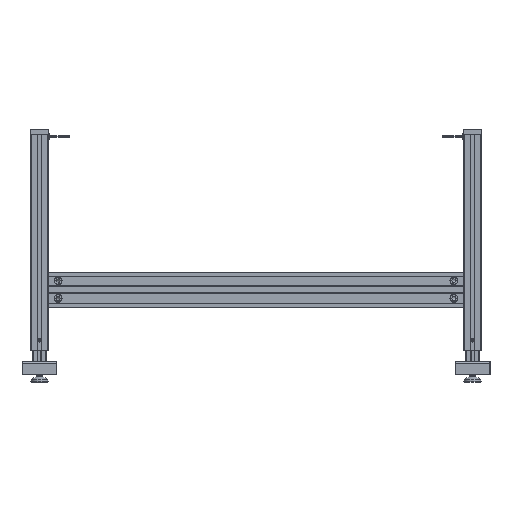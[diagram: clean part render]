
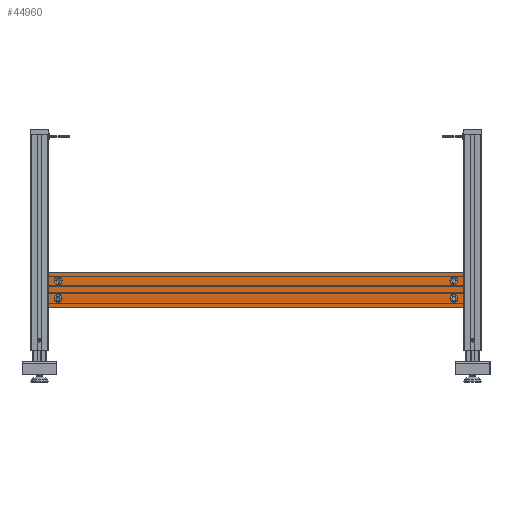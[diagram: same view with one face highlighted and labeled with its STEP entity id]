
A CAD part, left-side view. The second image highlights one B-rep face of the part: STEP entity #44960.
In plain terms, the highlighted planar face has unit normal (-1, 0, 0) as drawn and (1, 0, 0) by its records, which use the part's own axes.
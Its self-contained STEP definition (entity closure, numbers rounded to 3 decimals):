
#3013=CIRCLE('',#57402,9.);
#3014=CIRCLE('',#57403,9.);
#3015=CIRCLE('',#57404,9.);
#3016=CIRCLE('',#57405,9.);
#14815=ORIENTED_EDGE('',*,*,#22079,.T.);
#14816=ORIENTED_EDGE('',*,*,#22080,.T.);
#14817=ORIENTED_EDGE('',*,*,#22081,.T.);
#14818=ORIENTED_EDGE('',*,*,#22082,.T.);
#14819=ORIENTED_EDGE('',*,*,#22083,.T.);
#14820=ORIENTED_EDGE('',*,*,#22084,.F.);
#14821=ORIENTED_EDGE('',*,*,#22085,.T.);
#14822=ORIENTED_EDGE('',*,*,#22086,.T.);
#22079=EDGE_CURVE('',#26722,#26722,#3013,.T.);
#22080=EDGE_CURVE('',#26723,#26723,#3014,.T.);
#22081=EDGE_CURVE('',#26724,#26725,#31283,.T.);
#22082=EDGE_CURVE('',#26725,#26726,#31284,.T.);
#22083=EDGE_CURVE('',#26726,#26727,#31285,.T.);
#22084=EDGE_CURVE('',#26724,#26727,#31286,.T.);
#22085=EDGE_CURVE('',#26728,#26728,#3015,.T.);
#22086=EDGE_CURVE('',#26729,#26729,#3016,.T.);
#26722=VERTEX_POINT('',#83091);
#26723=VERTEX_POINT('',#83093);
#26724=VERTEX_POINT('',#83095);
#26725=VERTEX_POINT('',#83096);
#26726=VERTEX_POINT('',#83098);
#26727=VERTEX_POINT('',#83100);
#26728=VERTEX_POINT('',#83103);
#26729=VERTEX_POINT('',#83105);
#31283=LINE('',#83094,#35764);
#31284=LINE('',#83097,#35765);
#31285=LINE('',#83099,#35766);
#31286=LINE('',#83101,#35767);
#35764=VECTOR('',#69210,1000.);
#35765=VECTOR('',#69211,1000.);
#35766=VECTOR('',#69212,1000.);
#35767=VECTOR('',#69213,1000.);
#38356=EDGE_LOOP('',(#14815));
#38357=EDGE_LOOP('',(#14816));
#38358=EDGE_LOOP('',(#14817,#14818,#14819,#14820));
#38359=EDGE_LOOP('',(#14821));
#38360=EDGE_LOOP('',(#14822));
#40988=FACE_BOUND('',#38356,.T.);
#40989=FACE_BOUND('',#38357,.T.);
#40990=FACE_BOUND('',#38358,.T.);
#40991=FACE_BOUND('',#38359,.T.);
#40992=FACE_BOUND('',#38360,.T.);
#42748=PLANE('',#57401);
#44960=ADVANCED_FACE('',(#40988,#40989,#40990,#40991,#40992),#42748,.T.);
#57401=AXIS2_PLACEMENT_3D('',#83089,#69204,#69205);
#57402=AXIS2_PLACEMENT_3D('',#83090,#69206,#69207);
#57403=AXIS2_PLACEMENT_3D('',#83092,#69208,#69209);
#57404=AXIS2_PLACEMENT_3D('',#83102,#69214,#69215);
#57405=AXIS2_PLACEMENT_3D('',#83104,#69216,#69217);
#69204=DIRECTION('',(1.,0.,0.));
#69205=DIRECTION('',(0.,1.,0.));
#69206=DIRECTION('',(-1.,0.,0.));
#69207=DIRECTION('',(0.,0.,1.));
#69208=DIRECTION('',(-1.,0.,0.));
#69209=DIRECTION('',(0.,0.,1.));
#69210=DIRECTION('',(0.,1.,0.));
#69211=DIRECTION('',(0.,0.,1.));
#69212=DIRECTION('',(0.,-1.,0.));
#69213=DIRECTION('',(0.,0.,1.));
#69214=DIRECTION('',(-1.,0.,0.));
#69215=DIRECTION('',(0.,0.,1.));
#69216=DIRECTION('',(-1.,0.,0.));
#69217=DIRECTION('',(0.,0.,1.));
#83089=CARTESIAN_POINT('',(40.,80.,-1.));
#83090=CARTESIAN_POINT('',(40.,20.,927.5));
#83091=CARTESIAN_POINT('',(40.,20.,936.5));
#83092=CARTESIAN_POINT('',(40.,20.,22.5));
#83093=CARTESIAN_POINT('',(40.,20.,31.5));
#83094=CARTESIAN_POINT('',(40.,80.,0.));
#83095=CARTESIAN_POINT('',(40.,0.,0.));
#83096=CARTESIAN_POINT('',(40.,80.,0.));
#83097=CARTESIAN_POINT('',(40.,80.,-1.));
#83098=CARTESIAN_POINT('',(40.,80.,950.));
#83099=CARTESIAN_POINT('',(40.,40.,950.));
#83100=CARTESIAN_POINT('',(40.,0.,950.));
#83101=CARTESIAN_POINT('',(40.,0.,-1.));
#83102=CARTESIAN_POINT('',(40.,60.,22.5));
#83103=CARTESIAN_POINT('',(40.,60.,31.5));
#83104=CARTESIAN_POINT('',(40.,60.,927.5));
#83105=CARTESIAN_POINT('',(40.,60.,936.5));
